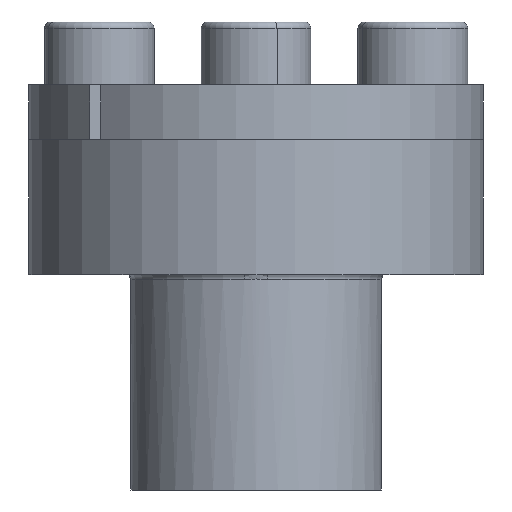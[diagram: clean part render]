
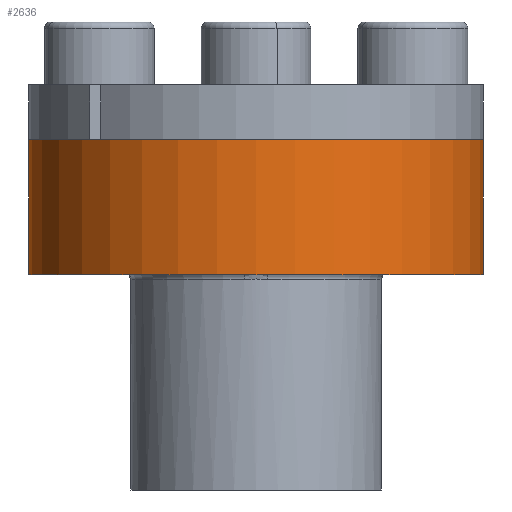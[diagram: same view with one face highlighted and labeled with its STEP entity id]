
A CAD part, front view. The second image highlights one B-rep face of the part: STEP entity #2636.
In plain terms, the highlighted cylindrical face has radius 14.5 mm (diameter 29 mm), a partial arc.
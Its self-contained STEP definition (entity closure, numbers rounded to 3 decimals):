
#107 = VERTEX_POINT ( 'NONE', #5418 ) ;
#117 = ORIENTED_EDGE ( 'NONE', *, *, #1260, .F. ) ;
#187 = EDGE_CURVE ( 'NONE', #107, #1511, #1555, .T. ) ;
#218 = FACE_OUTER_BOUND ( 'NONE', #2077, .T. ) ;
#866 = LINE ( 'NONE', #2275, #5653 ) ;
#918 = AXIS2_PLACEMENT_3D ( 'NONE', #2080, #6443, #2718 ) ;
#1260 = EDGE_CURVE ( 'NONE', #1511, #4852, #866, .T. ) ;
#1511 = VERTEX_POINT ( 'NONE', #1890 ) ;
#1521 = DIRECTION ( 'NONE',  ( 1., 0., 0. ) ) ;
#1555 = CIRCLE ( 'NONE', #5241, 14.5 ) ;
#1576 = DIRECTION ( 'NONE',  ( 0., 0., 1. ) ) ;
#1603 = CARTESIAN_POINT ( 'NONE',  ( 0., 0., 2.34 ) ) ;
#1706 = VERTEX_POINT ( 'NONE', #6474 ) ;
#1765 = CARTESIAN_POINT ( 'NONE',  ( -14.5, 0., 2.34 ) ) ;
#1890 = CARTESIAN_POINT ( 'NONE',  ( 14.5, 0., 2.34 ) ) ;
#2077 = EDGE_LOOP ( 'NONE', ( #117, #5673, #5016, #4709 ) ) ;
#2080 = CARTESIAN_POINT ( 'NONE',  ( 0., 0., -6.26 ) ) ;
#2172 = EDGE_CURVE ( 'NONE', #1706, #4852, #2811, .T. ) ;
#2275 = CARTESIAN_POINT ( 'NONE',  ( 14.5, 0., 2.34 ) ) ;
#2636 = ADVANCED_FACE ( 'NONE', ( #218 ), #7553, .T. ) ;
#2718 = DIRECTION ( 'NONE',  ( 1., 0., 0. ) ) ;
#2811 = CIRCLE ( 'NONE', #918, 14.5 ) ;
#2911 = DIRECTION ( 'NONE',  ( 0., 0., -1. ) ) ;
#3081 = DIRECTION ( 'NONE',  ( 0., 0., -1. ) ) ;
#3087 = VECTOR ( 'NONE', #6121, 1000. ) ;
#3544 = CARTESIAN_POINT ( 'NONE',  ( 14.5, 0., -6.26 ) ) ;
#4709 = ORIENTED_EDGE ( 'NONE', *, *, #2172, .T. ) ;
#4852 = VERTEX_POINT ( 'NONE', #3544 ) ;
#4991 = DIRECTION ( 'NONE',  ( -1., 0., 0. ) ) ;
#5016 = ORIENTED_EDGE ( 'NONE', *, *, #6396, .T. ) ;
#5241 = AXIS2_PLACEMENT_3D ( 'NONE', #1603, #1576, #1521 ) ;
#5418 = CARTESIAN_POINT ( 'NONE',  ( -14.5, 0., 2.34 ) ) ;
#5653 = VECTOR ( 'NONE', #2911, 1000. ) ;
#5673 = ORIENTED_EDGE ( 'NONE', *, *, #187, .F. ) ;
#6121 = DIRECTION ( 'NONE',  ( 0., 0., -1. ) ) ;
#6203 = CARTESIAN_POINT ( 'NONE',  ( 0., 0., 2.34 ) ) ;
#6396 = EDGE_CURVE ( 'NONE', #107, #1706, #7835, .T. ) ;
#6443 = DIRECTION ( 'NONE',  ( 0., 0., 1. ) ) ;
#6474 = CARTESIAN_POINT ( 'NONE',  ( -14.5, 0., -6.26 ) ) ;
#6588 = AXIS2_PLACEMENT_3D ( 'NONE', #6203, #3081, #4991 ) ;
#7553 = CYLINDRICAL_SURFACE ( 'NONE', #6588, 14.5 ) ;
#7835 = LINE ( 'NONE', #1765, #3087 ) ;
